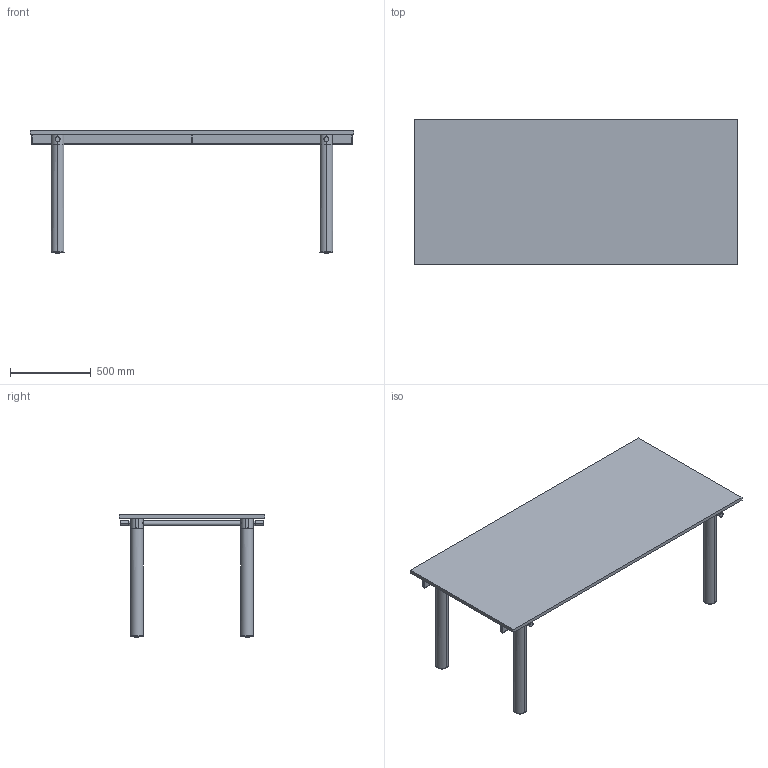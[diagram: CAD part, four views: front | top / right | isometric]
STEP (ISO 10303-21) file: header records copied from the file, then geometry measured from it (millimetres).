
FILE_DESCRIPTION(/* description */ (''),/* implementation_level */ '2;1');
FILE_NAME(/* name */ 'Atura Dining Table - 2000 x 900_Ferm Living_3D',/* time_stamp */ '2026-01-30T12:59:26+01:00',/* author */ (''),/* organization */ (''),/* preprocessor_version */ 'ST-DEVELOPER v19.2',/* originating_system */ 'Rhino 8.19',/* authorisation */ '');
FILE_SCHEMA (('CONFIG_CONTROL_DESIGN'));
Length unit declared in the file: millimetre
Products named in the file (2): Document; Dining Table_3D_2000x900
Bounding box: 2000 x 900 x 756 mm (x, y, z)
Volume: 46241250.8 mm3; surface area: 6765032.9 mm2
Topology: 35 solids, 35 shells, 772 faces, 2041 edges, 1335 vertices
Faces by surface type: cylinder 484, plane 216, bspline 72
Entity records: 86758 total; most frequent: CARTESIAN_POINT 71351, ORIENTED_EDGE 4076, EDGE_CURVE 2038, DIRECTION 1552, VERTEX_POINT 1332, AXIS2_PLACEMENT_3D 1126, B_SPLINE_CURVE_WITH_KNOTS 1030, EDGE_LOOP 844
